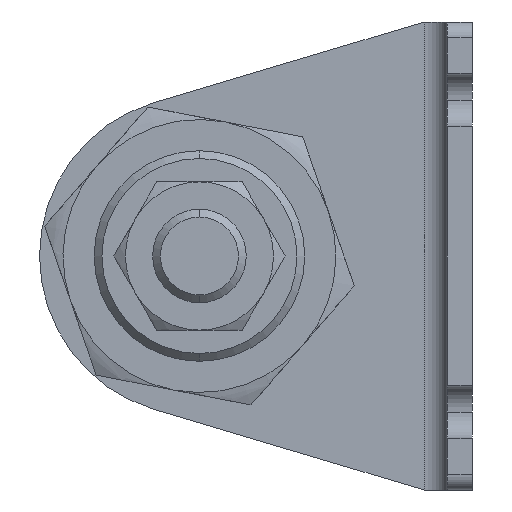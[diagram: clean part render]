
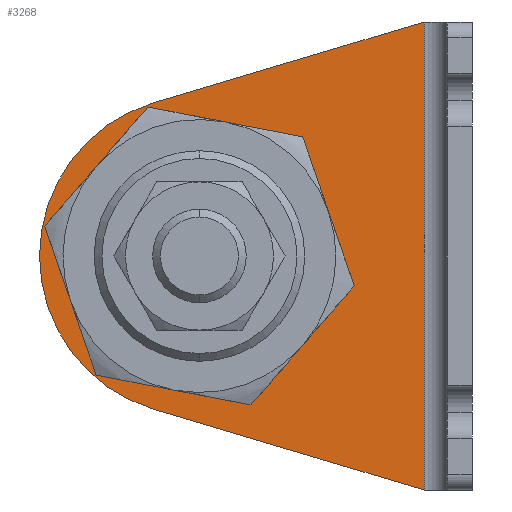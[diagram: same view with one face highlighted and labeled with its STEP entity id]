
A CAD part, left-side view. The second image highlights one B-rep face of the part: STEP entity #3268.
In plain terms, the highlighted planar face has unit normal (-1, 0, 0) as drawn and (1, 0, 0) by its records, which use the part's own axes.
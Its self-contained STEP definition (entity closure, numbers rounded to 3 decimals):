
#34 = DIRECTION ( 'NONE',  ( 1., 0., 0. ) ) ;
#110 = DIRECTION ( 'NONE',  ( 0., 1., 0. ) ) ;
#116 = EDGE_CURVE ( 'NONE', #1775, #776, #2570, .T. ) ;
#157 = VECTOR ( 'NONE', #4297, 1000. ) ;
#228 = EDGE_CURVE ( 'NONE', #3827, #4492, #1261, .T. ) ;
#348 = ORIENTED_EDGE ( 'NONE', *, *, #3619, .T. ) ;
#374 = CARTESIAN_POINT ( 'NONE',  ( 3.2, 48.5, -30. ) ) ;
#528 = EDGE_CURVE ( 'NONE', #3015, #4380, #4151, .T. ) ;
#545 = EDGE_CURVE ( 'NONE', #2733, #1775, #2740, .T. ) ;
#583 = AXIS2_PLACEMENT_3D ( 'NONE', #3553, #1202, #3000 ) ;
#776 = VERTEX_POINT ( 'NONE', #1158 ) ;
#796 = CARTESIAN_POINT ( 'NONE',  ( 3.2, 6.2, 0. ) ) ;
#1158 = CARTESIAN_POINT ( 'NONE',  ( 3.2, 40.868, -49.642 ) ) ;
#1202 = DIRECTION ( 'NONE',  ( 1., 0., 0. ) ) ;
#1261 = CIRCLE ( 'NONE', #1808, 20.5 ) ;
#1290 = CARTESIAN_POINT ( 'NONE',  ( 3.2, 21.5, -30. ) ) ;
#1307 = LINE ( 'NONE', #1974, #157 ) ;
#1451 = VECTOR ( 'NONE', #4018, 1000. ) ;
#1643 = AXIS2_PLACEMENT_3D ( 'NONE', #3908, #2014, #4501 ) ;
#1649 = PLANE ( 'NONE',  #1643 ) ;
#1670 = CIRCLE ( 'NONE', #2193, 13.5 ) ;
#1728 = ORIENTED_EDGE ( 'NONE', *, *, #1910, .F. ) ;
#1775 = VERTEX_POINT ( 'NONE', #3989 ) ;
#1808 = AXIS2_PLACEMENT_3D ( 'NONE', #2220, #3981, #2574 ) ;
#1910 = EDGE_CURVE ( 'NONE', #2733, #4492, #1307, .T. ) ;
#1928 = CARTESIAN_POINT ( 'NONE',  ( 3.2, 55.5, -30. ) ) ;
#1939 = FACE_OUTER_BOUND ( 'NONE', #3466, .T. ) ;
#1974 = CARTESIAN_POINT ( 'NONE',  ( 3.2, 19.903, -4.094 ) ) ;
#2014 = DIRECTION ( 'NONE',  ( 1., 0., 0. ) ) ;
#2060 = ORIENTED_EDGE ( 'NONE', *, *, #545, .T. ) ;
#2061 = DIRECTION ( 'NONE',  ( 0., 0.958, 0.286 ) ) ;
#2092 = FACE_BOUND ( 'NONE', #4089, .T. ) ;
#2129 = CARTESIAN_POINT ( 'NONE',  ( 3.2, 3.446, -60.823 ) ) ;
#2193 = AXIS2_PLACEMENT_3D ( 'NONE', #2357, #2915, #4400 ) ;
#2220 = CARTESIAN_POINT ( 'NONE',  ( 3.2, 35., -30. ) ) ;
#2357 = CARTESIAN_POINT ( 'NONE',  ( 3.2, 35., -30. ) ) ;
#2391 = CARTESIAN_POINT ( 'NONE',  ( 3.2, 40.868, -10.358 ) ) ;
#2437 = EDGE_CURVE ( 'NONE', #4380, #3015, #1670, .T. ) ;
#2570 = LINE ( 'NONE', #2129, #4356 ) ;
#2574 = DIRECTION ( 'NONE',  ( 0., 1., 0. ) ) ;
#2733 = VERTEX_POINT ( 'NONE', #796 ) ;
#2740 = LINE ( 'NONE', #3648, #1451 ) ;
#2840 = ORIENTED_EDGE ( 'NONE', *, *, #116, .T. ) ;
#2865 = ORIENTED_EDGE ( 'NONE', *, *, #2437, .F. ) ;
#2915 = DIRECTION ( 'NONE',  ( 1., 0., 0. ) ) ;
#3000 = DIRECTION ( 'NONE',  ( 0., 1., 0. ) ) ;
#3010 = CIRCLE ( 'NONE', #583, 20.5 ) ;
#3015 = VERTEX_POINT ( 'NONE', #374 ) ;
#3268 = ADVANCED_FACE ( 'NONE', ( #2092, #1939 ), #1649, .T. ) ;
#3313 = CARTESIAN_POINT ( 'NONE',  ( 3.2, 35., -30. ) ) ;
#3362 = AXIS2_PLACEMENT_3D ( 'NONE', #3313, #34, #110 ) ;
#3466 = EDGE_LOOP ( 'NONE', ( #2840, #348, #3715, #1728, #2060 ) ) ;
#3553 = CARTESIAN_POINT ( 'NONE',  ( 3.2, 35., -30. ) ) ;
#3572 = ORIENTED_EDGE ( 'NONE', *, *, #528, .F. ) ;
#3619 = EDGE_CURVE ( 'NONE', #776, #3827, #3010, .T. ) ;
#3648 = CARTESIAN_POINT ( 'NONE',  ( 3.2, 6.2, -60. ) ) ;
#3715 = ORIENTED_EDGE ( 'NONE', *, *, #228, .T. ) ;
#3827 = VERTEX_POINT ( 'NONE', #1928 ) ;
#3908 = CARTESIAN_POINT ( 'NONE',  ( 3.2, 3.2, -60. ) ) ;
#3981 = DIRECTION ( 'NONE',  ( 1., 0., 0. ) ) ;
#3989 = CARTESIAN_POINT ( 'NONE',  ( 3.2, 6.2, -60. ) ) ;
#4018 = DIRECTION ( 'NONE',  ( 0., 0., -1. ) ) ;
#4089 = EDGE_LOOP ( 'NONE', ( #3572, #2865 ) ) ;
#4151 = CIRCLE ( 'NONE', #3362, 13.5 ) ;
#4297 = DIRECTION ( 'NONE',  ( 0., 0.958, -0.286 ) ) ;
#4356 = VECTOR ( 'NONE', #2061, 1000. ) ;
#4380 = VERTEX_POINT ( 'NONE', #1290 ) ;
#4400 = DIRECTION ( 'NONE',  ( 0., 1., 0. ) ) ;
#4492 = VERTEX_POINT ( 'NONE', #2391 ) ;
#4501 = DIRECTION ( 'NONE',  ( 0., 1., 0. ) ) ;
